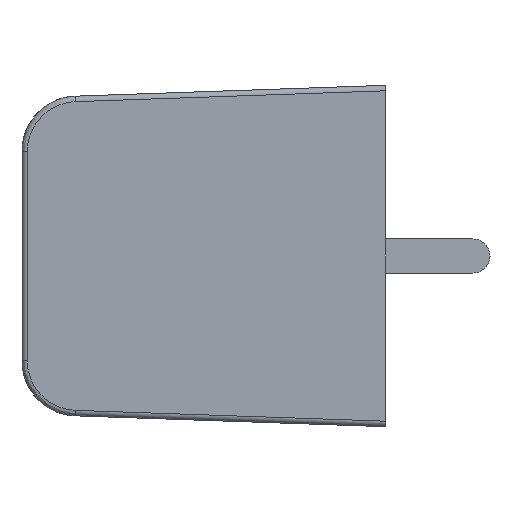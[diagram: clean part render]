
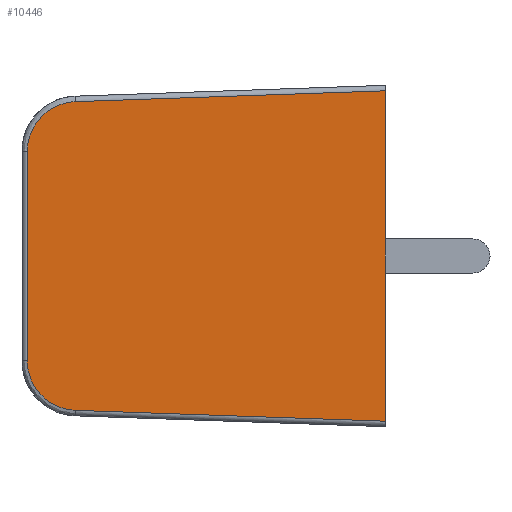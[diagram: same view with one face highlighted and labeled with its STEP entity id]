
A CAD part, left-side view. The second image highlights one B-rep face of the part: STEP entity #10446.
In plain terms, the highlighted planar face has unit normal (-1, 0.03, 0).
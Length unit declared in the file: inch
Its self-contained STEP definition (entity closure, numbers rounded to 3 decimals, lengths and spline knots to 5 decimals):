
#52=CARTESIAN_POINT('',(-0.79,0.,-0.3));
#62=CARTESIAN_POINT('',(-0.79,0.,0.3));
#3742=DIRECTION('',(-0.03,-0.999,0.035));
#3743=VECTOR('',#3742,0.56405);
#3744=CARTESIAN_POINT('',(-0.77293,0.56344,
0.28033));
#3745=LINE('',#3744,#3743);
#3746=DIRECTION('',(0.,0.,-1.));
#3747=VECTOR('',#3746,0.60001);
#3748=CARTESIAN_POINT('',(-0.79,0.,0.3));
#3749=LINE('',#3748,#3747);
#3750=DIRECTION('',(0.03,0.999,0.035));
#3751=VECTOR('',#3750,0.56405);
#3752=CARTESIAN_POINT('',(-0.79,0.,-0.3));
#3753=LINE('',#3752,#3751);
#3754=CARTESIAN_POINT('',(-0.77293,0.56344,
-0.28033));
#3755=CARTESIAN_POINT('',(-0.77286,0.56551,
-0.28026));
#3756=CARTESIAN_POINT('',(-0.77272,0.57021,
-0.27996));
#3757=CARTESIAN_POINT('',(-0.77245,0.57915,
-0.27857));
#3758=CARTESIAN_POINT('',(-0.77214,0.58929,
-0.27583));
#3759=CARTESIAN_POINT('',(-0.77182,0.60009,
-0.27141));
#3760=CARTESIAN_POINT('',(-0.77149,0.61089,
-0.26518));
#3761=CARTESIAN_POINT('',(-0.77118,0.62106,
-0.25721));
#3762=CARTESIAN_POINT('',(-0.77091,0.63003,
-0.24777));
#3763=CARTESIAN_POINT('',(-0.77068,0.63743,
-0.23733));
#3764=CARTESIAN_POINT('',(-0.77051,0.64306,
-0.22642));
#3765=CARTESIAN_POINT('',(-0.7704,0.6469,
-0.21568));
#3766=CARTESIAN_POINT('',(-0.77033,0.64916,
-0.20571));
#3767=CARTESIAN_POINT('',(-0.7703,0.65018,
-0.19697));
#3768=CARTESIAN_POINT('',(-0.77029,0.6503,
-0.19239));
#3769=CARTESIAN_POINT('',(-0.77029,0.6503,
-0.19038));
#3771=DIRECTION('',(0.,0.,1.));
#3772=VECTOR('',#3771,0.38077);
#3773=CARTESIAN_POINT('',(-0.77029,0.6503,
-0.19038));
#3774=LINE('',#3773,#3772);
#3775=CARTESIAN_POINT('',(-0.77029,0.6503,
0.19038));
#3776=CARTESIAN_POINT('',(-0.77029,0.6503,
0.19241));
#3777=CARTESIAN_POINT('',(-0.7703,0.65017,
0.19702));
#3778=CARTESIAN_POINT('',(-0.77033,0.64915,
0.20578));
#3779=CARTESIAN_POINT('',(-0.7704,0.64688,
0.21576));
#3780=CARTESIAN_POINT('',(-0.77051,0.64303,
0.22649));
#3781=CARTESIAN_POINT('',(-0.77068,0.63741,
0.23737));
#3782=CARTESIAN_POINT('',(-0.77091,0.63002,
0.24779));
#3783=CARTESIAN_POINT('',(-0.77118,0.62106,
0.2572));
#3784=CARTESIAN_POINT('',(-0.77149,0.61092,
0.26516));
#3785=CARTESIAN_POINT('',(-0.77181,0.60014,
0.27139));
#3786=CARTESIAN_POINT('',(-0.77214,0.58936,
0.2758));
#3787=CARTESIAN_POINT('',(-0.77245,0.57922,
0.27856));
#3788=CARTESIAN_POINT('',(-0.77272,0.57026,
0.27995));
#3789=CARTESIAN_POINT('',(-0.77286,0.56553,
0.28026));
#3790=CARTESIAN_POINT('',(-0.77293,0.56344,
0.28033));
#4395=VERTEX_POINT('',#62);
#4396=CARTESIAN_POINT('',(-0.77293,0.56344,
0.28033));
#4397=VERTEX_POINT('',#4396);
#4401=VERTEX_POINT('',#3775);
#4404=CARTESIAN_POINT('',(-0.77029,0.6503,
-0.19038));
#4405=VERTEX_POINT('',#4404);
#4407=VERTEX_POINT('',#3754);
#4408=VERTEX_POINT('',#52);
#10429=CARTESIAN_POINT('',(-0.77,0.66,-0.31));
#10430=DIRECTION('',(-1.,0.03,0.));
#10431=DIRECTION('',(-0.03,-1.,0.));
#10432=AXIS2_PLACEMENT_3D('',#10429,#10430,#10431);
#10433=PLANE('',#10432);
#10434=ORIENTED_EDGE('',*,*,#10421,.T.);
#10435=ORIENTED_EDGE('',*,*,#5111,.T.);
#10437=ORIENTED_EDGE('',*,*,#10436,.T.);
#10439=ORIENTED_EDGE('',*,*,#10438,.T.);
#10441=ORIENTED_EDGE('',*,*,#10440,.T.);
#10443=ORIENTED_EDGE('',*,*,#10442,.T.);
#10444=EDGE_LOOP('',(#10434,#10435,#10437,#10439,#10441,#10443));
#10445=FACE_OUTER_BOUND('',#10444,.F.);
#10446=ADVANCED_FACE('',(#10445),#10433,.T.);
#3770=B_SPLINE_CURVE_WITH_KNOTS('',3,(#3754,#3755,#3756,#3757,#3758,#3759,#3760,
#3761,#3762,#3763,#3764,#3765,#3766,#3767,#3768,#3769),.UNSPECIFIED.,.F.,.F.,(4,
1,1,1,1,1,1,1,1,1,1,1,1,4),(0.,0.07692,0.15385,
0.23077,0.30769,0.38462,0.46154,
0.53846,0.61538,0.69231,0.76923,
0.84615,0.92308,1.),.UNSPECIFIED.);
#3791=B_SPLINE_CURVE_WITH_KNOTS('',3,(#3775,#3776,#3777,#3778,#3779,#3780,#3781,
#3782,#3783,#3784,#3785,#3786,#3787,#3788,#3789,#3790),.UNSPECIFIED.,.F.,.F.,(4,
1,1,1,1,1,1,1,1,1,1,1,1,4),(0.,0.07692,0.15385,
0.23077,0.30769,0.38462,0.46154,
0.53846,0.61538,0.69231,0.76923,
0.84615,0.92308,1.),.UNSPECIFIED.);
#5111=EDGE_CURVE('',#4395,#4408,#3749,.T.);
#10421=EDGE_CURVE('',#4397,#4395,#3745,.T.);
#10436=EDGE_CURVE('',#4408,#4407,#3753,.T.);
#10438=EDGE_CURVE('',#4407,#4405,#3770,.T.);
#10440=EDGE_CURVE('',#4405,#4401,#3774,.T.);
#10442=EDGE_CURVE('',#4401,#4397,#3791,.T.);
